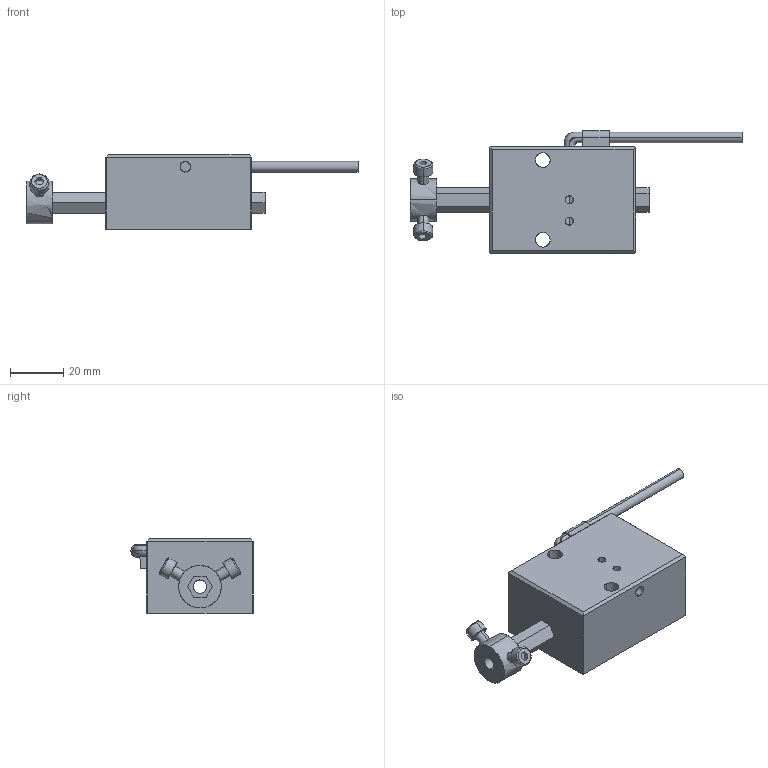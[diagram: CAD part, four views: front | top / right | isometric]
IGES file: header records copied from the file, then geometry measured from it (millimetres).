
Global section: file name: E:\UnigraphicsGraphicData\MISUMI_PRESS-PARTS\IGES\3d_mgu20_04575_r00.igs; native system: NX V5.0; preprocessor: UGS NX IGES V5.0; author: MISUMI; date: 20110105.161438; units: millimetre
Bounding box: 125 x 46 x 28 mm (x, y, z)
Surface area: 15808.8 mm2 (no closed solid volume)
Topology: 0 solids, 0 shells, 108 faces, 760 edges, 760 vertices
Faces by surface type: bspline 108
